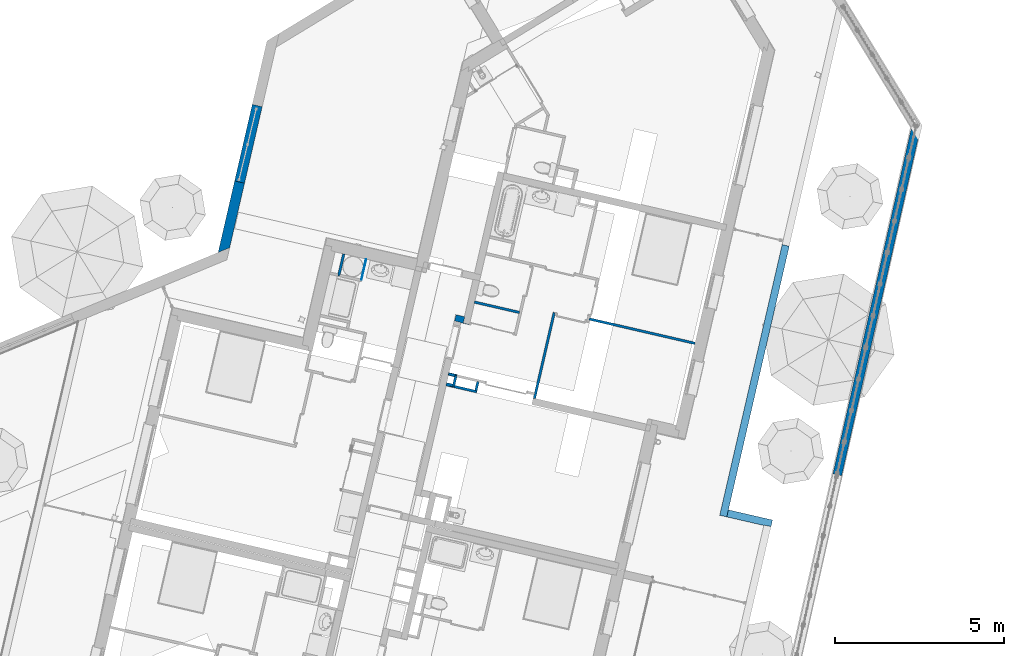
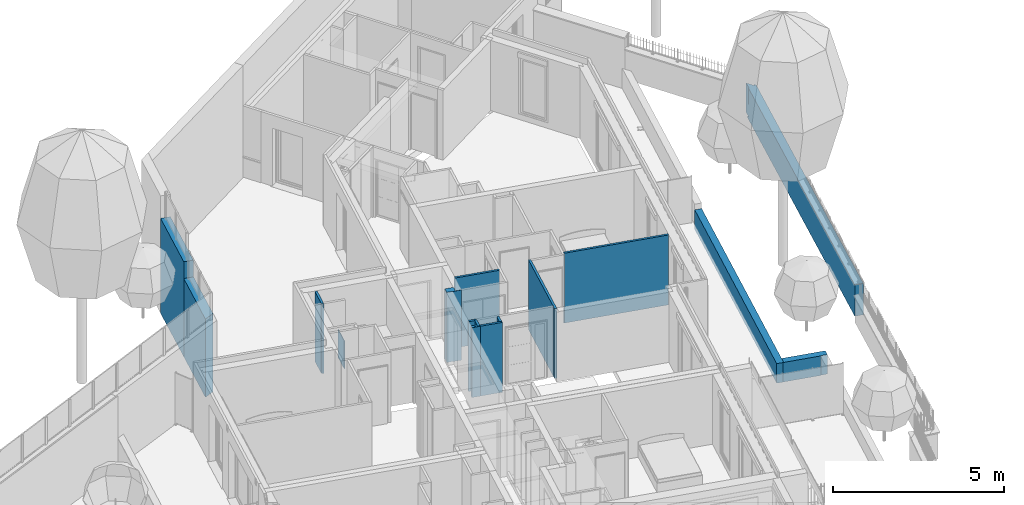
# One storey, part 59 of 119: 16 walls.
"""IFC2X3 building model written with IfcOpenShell, lengths in metres."""

import ifcopenshell
import ifcopenshell.guid

model = None  # the IFC model being written
_history = None  # IfcOwnerHistory: only IFC2X3 demands one
_inside = {}  # id of a spatial element -> (the spatial element, [elements in it])
_under = {}  # id of a project, library or spatial element -> (it, [spatial elements below it])
_declared = {}  # id of a project -> (the project, [libraries it declares])
_typed = {}  # id of a type object -> (the type object, [elements of that type])
_made_of = {}  # id of a material, layer set ... -> (it, [elements and type objects made of it])


def new_model(schema):
    """Start an empty IFC model of exactly this schema.

    Asked for "IFC4X3", IfcOpenShell would pick the latest addendum, in which some entities
    have other attributes; the version numbers below select the first issue.
    IFC2X3 requires an IfcOwnerHistory on every rooted entity: one is made here for all.
    """
    global model, _history
    if schema == "IFC4X3":
        model = ifcopenshell.file(schema_version=(4, 3, 0, 0))
    else:
        model = ifcopenshell.file(schema=schema)
    _inside.clear()
    _under.clear()
    _declared.clear()
    _typed.clear()
    _made_of.clear()
    _history = None
    if model.schema == "IFC2X3":
        org = make("IfcOrganization", Name="unknown")
        user = make(
            "IfcPersonAndOrganization",
            ThePerson=make("IfcPerson", FamilyName="unknown"),
            TheOrganization=org,
        )
        app = make(
            "IfcApplication",
            ApplicationDeveloper=org,
            Version="unknown",
            ApplicationFullName="unknown",
            ApplicationIdentifier="unknown",
        )
        _history = make(
            "IfcOwnerHistory",
            OwningUser=user,
            OwningApplication=app,
            ChangeAction="ADDED",
            CreationDate=0,
        )
    return model


def make(cls, **values):
    """One entity of the class cls with the attributes given. An attribute that is None is left unset."""
    return model.create_entity(
        cls, **{name: value for name, value in values.items() if value is not None}
    )


def entity(cls, *values):
    """Any entity or typed value of the class cls, its attributes in the order of the schema. None: left unset."""
    e = model.create_entity(cls)
    for i, value in enumerate(values):
        if value is not None:
            e[i] = value
    return e


def rooted(cls, **values):
    """An entity with a GlobalId (a new one), such as an element, a storey or a relation."""
    return make(cls, GlobalId=ifcopenshell.guid.new(), OwnerHistory=_history, **values)


def si_unit(unit_type, name, prefix=None):
    """IfcSIUnit, for example si_unit("LENGTHUNIT", "METRE", prefix="MILLI")."""
    return make("IfcSIUnit", UnitType=unit_type, Prefix=prefix, Name=name)


def converted_unit(unit_type, name, factor, base, dimensions=None, offset=None):
    """IfcConversionBasedUnit, such as the inch: factor (a typed value) times the base unit."""
    return make(
        "IfcConversionBasedUnit"
        if offset is None
        else "IfcConversionBasedUnitWithOffset",
        ConversionOffset=offset,
        Dimensions=None
        if dimensions is None
        else entity("IfcDimensionalExponents", *dimensions),
        UnitType=unit_type,
        Name=name,
        ConversionFactor=make(
            "IfcMeasureWithUnit", ValueComponent=factor, UnitComponent=base
        ),
    )


def derived_unit(unit_type, elements):
    """IfcDerivedUnit: a product of units, each with its exponent."""
    return make(
        "IfcDerivedUnit",
        Elements=[
            make("IfcDerivedUnitElement", Unit=unit, Exponent=power)
            for unit, power in elements
        ],
        UnitType=unit_type,
    )


def money_unit(currency):
    """IfcMonetaryUnit."""
    return make("IfcMonetaryUnit", Currency=currency)


def assignment(units):
    """IfcUnitAssignment: the units of a project."""
    return None if units is None else make("IfcUnitAssignment", Units=units)


def point(xyz):
    """IfcCartesianPoint."""
    return None if xyz is None else make("IfcCartesianPoint", Coordinates=xyz)


def direction(xyz):
    """IfcDirection."""
    return None if xyz is None else make("IfcDirection", DirectionRatios=xyz)


def frame(location, z_axis=None, x_axis=None):
    """IfcAxis2Placement3D, a coordinate frame: its origin and axes. An axis left out is left unset."""
    return make(
        "IfcAxis2Placement3D",
        Location=point(location),
        Axis=direction(z_axis),
        RefDirection=direction(x_axis),
    )


def origin_with_axes():
    """The frame at (0, 0, 0) with the z axis (0, 0, 1) and the x axis (1, 0, 0) written out."""
    return frame((0.0, 0.0, 0.0), z_axis=(0.0, 0.0, 1.0), x_axis=(1.0, 0.0, 0.0))


def place(relative_to, where):
    """IfcLocalPlacement: puts the frame where relative to a parent placement (None: the world)."""
    return make(
        "IfcLocalPlacement", PlacementRelTo=relative_to, RelativePlacement=where
    )


def context(
    kind, dimensions, precision=None, world=None, true_north=None, identifier=None
):
    """IfcGeometricRepresentationContext, for example the 3D "Model" context."""
    return make(
        "IfcGeometricRepresentationContext",
        ContextIdentifier=identifier,
        ContextType=kind,
        CoordinateSpaceDimension=dimensions,
        Precision=precision,
        WorldCoordinateSystem=world,
        TrueNorth=true_north,
    )


def subcontext(parent, identifier, kind, view, scale=None):
    """IfcGeometricRepresentationSubContext, for example "Body" below "Model"."""
    return make(
        "IfcGeometricRepresentationSubContext",
        ContextIdentifier=identifier,
        ContextType=kind,
        ParentContext=parent,
        TargetScale=scale,
        TargetView=view,
    )


def project(units=None, contexts=None):
    """IfcProject with its units and contexts."""
    return rooted(
        "IfcProject",
        Name="project",
        RepresentationContexts=contexts,
        UnitsInContext=assignment(units),
    )


def spatial(cls, under=None, at=None, **own):
    """A site, building, storey or space (cls), placed at a placement, below another one or the project."""
    s = rooted(cls, ObjectPlacement=at, **own)
    if under is not None:
        _under.setdefault(under.id(), (under, []))[1].append(s)
    return s


def faces_of(points, faces, orient=None, outer=None):
    """IfcFace entities. A face is a list of loops; a loop is a list of indices into points, from 0.

    orient and outer hold one flag for each loop. By default every Orientation is true, the
    first loop of a face is its IfcFaceOuterBound and the others are IfcFaceBound.
    """
    made = []
    for i, loops in enumerate(faces):
        bounds = []
        for j, loop in enumerate(loops):
            is_outer = j == 0 if outer is None else outer[i][j]
            bounds.append(
                make(
                    "IfcFaceOuterBound" if is_outer else "IfcFaceBound",
                    Bound=make("IfcPolyLoop", Polygon=[points[k] for k in loop]),
                    Orientation=True if orient is None else orient[i][j],
                )
            )
        made.append(make("IfcFace", Bounds=bounds))
    return made


def faceted_brep(points, faces, orient=None, outer=None, voids=None):
    """IfcFacetedBrep: a solid bounded by flat faces; with voids (closed shells), ...WithVoids."""
    shared = [point(p) for p in points]
    hull = make("IfcClosedShell", CfsFaces=faces_of(shared, faces, orient, outer))
    if voids is None:
        return make("IfcFacetedBrep", Outer=hull)
    return make(
        "IfcFacetedBrepWithVoids",
        Outer=hull,
        Voids=[
            make(cls, CfsFaces=faces_of(shared, fs, o, b)) for cls, fs, o, b in voids
        ],
    )


def shape(context_of_items, identifier, shape_type, items):
    """IfcShapeRepresentation: the items that make up one representation, for example the "Body"."""
    return make(
        "IfcShapeRepresentation",
        ContextOfItems=context_of_items,
        RepresentationIdentifier=identifier,
        RepresentationType=shape_type,
        Items=items,
    )


def material(Name=None, Category=None):
    """IfcMaterial."""
    return make("IfcMaterial", Name=Name, Category=Category)


def material_list(materials):
    """IfcMaterialList."""
    return make("IfcMaterialList", Materials=materials)


def made_of(thing, what):
    """Note that an element or type object is made of a material, layer set ...; save() writes the relation."""
    if what is not None:
        _made_of.setdefault(what.id(), (what, []))[1].append(thing)
    return thing


def type_object(cls, material=None, **own):
    """A type object (cls), such as IfcWallType, which elements share."""
    return made_of(rooted(cls, **own), material)


def element(
    cls,
    number,
    at=None,
    inside=None,
    cuts=None,
    type_object=None,
    material=None,
    context=None,
    identifier="Body",
    shape_type=None,
    held_by="IfcProductDefinitionShape",
    body=None,
    shapes=None,
    **own,
):
    """One element of the class cls, such as IfcWall. Its Tag is "e" and its number.

    at: its placement. inside: the storey or other place that contains it. cuts: it is an
    opening in that element (IfcRelVoidsElement). A single representation is given by context,
    identifier, shape_type and body (its items); several are given by shapes. held_by: the class
    of the entity that holds the representations. save() writes the other relations.
    """
    e = rooted(cls, Tag="e%d" % number, ObjectPlacement=at, **own)
    if body is not None:
        shapes = [shape(context, identifier, shape_type, body)]
    if shapes is not None:
        e.Representation = make(held_by, Representations=shapes)
    if inside is not None:
        _inside.setdefault(inside.id(), (inside, []))[1].append(e)
    if cuts is not None:
        rooted(
            "IfcRelVoidsElement", RelatingBuildingElement=cuts, RelatedOpeningElement=e
        )
    if type_object is not None:
        _typed.setdefault(type_object.id(), (type_object, []))[1].append(e)
    return made_of(e, material)


def aggregate(whole, parts):
    """IfcRelAggregates: a whole, such as a stair, and the parts it consists of."""
    return rooted("IfcRelAggregates", RelatingObject=whole, RelatedObjects=parts)


def save(model, path):
    """Write the relations noted so far, then the file.

    IfcRelAggregates (storeys below a building ...), IfcRelContainedInSpatialStructure (elements
    in a storey), IfcRelDefinesByType, IfcRelAssociatesMaterial and IfcRelDeclares: one each for
    every whole, place, type object, material and project.
    """
    for whole, parts in _under.values():
        aggregate(whole, parts)
    for where, things in _inside.values():
        rooted(
            "IfcRelContainedInSpatialStructure",
            RelatedElements=things,
            RelatingStructure=where,
        )
    for kind, things in _typed.values():
        rooted("IfcRelDefinesByType", RelatedObjects=things, RelatingType=kind)
    for what, things in _made_of.values():
        rooted("IfcRelAssociatesMaterial", RelatedObjects=things, RelatingMaterial=what)
    for by, libraries in _declared.values():
        rooted("IfcRelDeclares", RelatingContext=by, RelatedDefinitions=libraries)
    model.write(path)


model = new_model("IFC2X3")

# Units and contexts
model_context = context("Model", 3, precision=1e-05, world=origin_with_axes(), true_north=direction((0.0, 1.0)))
body_context = subcontext(model_context, "Body", "Model", "MODEL_VIEW")
ifc_project = project(units=[si_unit("LENGTHUNIT", "METRE"), si_unit("AREAUNIT", "SQUARE_METRE"), si_unit("VOLUMEUNIT", "CUBIC_METRE"), converted_unit("PLANEANGLEUNIT", "DEGREE", entity("IfcPlaneAngleMeasure", 0.0174532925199), si_unit("PLANEANGLEUNIT", "RADIAN"), dimensions=[0, 0, 0, 0, 0, 0, 0]), si_unit("SOLIDANGLEUNIT", "STERADIAN"), money_unit("EUR"), converted_unit("TIMEUNIT", "Year", entity("IfcTimeMeasure", 31556926.0), si_unit("TIMEUNIT", "SECOND"), dimensions=[0, 0, 1, 0, 0, 0, 0]), si_unit("MASSUNIT", "GRAM", prefix="KILO"), si_unit("THERMODYNAMICTEMPERATUREUNIT", "DEGREE_CELSIUS"), si_unit("LUMINOUSINTENSITYUNIT", "LUMEN"), si_unit("ENERGYUNIT", "JOULE", prefix="MEGA"), derived_unit("THERMALCONDUCTANCEUNIT", [(si_unit("POWERUNIT", "WATT"), 1), (si_unit("LENGTHUNIT", "METRE"), -1), (si_unit("THERMODYNAMICTEMPERATUREUNIT", "KELVIN"), -1)]), derived_unit("SPECIFICHEATCAPACITYUNIT", [(si_unit("ENERGYUNIT", "JOULE"), 1), (si_unit("MASSUNIT", "GRAM", prefix="KILO"), -1), (si_unit("THERMODYNAMICTEMPERATUREUNIT", "KELVIN"), -1)]), derived_unit("MASSDENSITYUNIT", [(si_unit("MASSUNIT", "GRAM", prefix="KILO"), 1), (si_unit("VOLUMEUNIT", "CUBIC_METRE"), -1)])], contexts=[model_context])

# Site, building, storey
site_placement = place(None, origin_with_axes())
site = spatial("IfcSite", under=ifc_project, at=site_placement, Name="Site", CompositionType="ELEMENT")
building_placement = place(site_placement, origin_with_axes())
building = spatial("IfcBuilding", under=site, at=building_placement, Name="Bâtiment", CompositionType="ELEMENT")
storey_placement = place(building_placement, origin_with_axes())
storey = spatial("IfcBuildingStorey", under=building, at=storey_placement, Name="Rez-de-chaussée", CompositionType="ELEMENT", Elevation=0.0)

# Walls
ifc_material_1 = material(Name="Béton")
wall_type_1 = type_object("IfcWallType", Name="Béton 300", PredefinedType="USERDEFINED")
wall_1_placement = place(storey_placement, frame((-13.3099971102, 14.0436946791, -0.03), z_axis=(0.0, 0.0, 1.0), x_axis=(-0.22487619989, -0.974387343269, 0.0)))
element("IfcWall", 1, at=wall_1_placement, inside=storey, type_object=wall_type_1, material=ifc_material_1, Name="Voile projeté béton par passes alternées", ObjectType="SOLIDWALL", context=body_context, shape_type="Brep", body=[
    faceted_brep([(0.0, 0.0, 2.8), (0.0, -0.3, 2.8), (2.17054997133, -0.3, 2.8), (1.9563859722, 0.0, 2.8), (0.0, 0.0, 0.0), (0.0, -0.3, 0.0), (2.17054997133, -0.3, 0.0), (1.9563859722, 0.0, 0.0)], [[[0, 1, 2, 3]], [[0, 4, 5, 1]], [[1, 5, 6, 2]], [[6, 7, 3, 2]], [[4, 0, 3, 7]], [[5, 4, 7, 6]]]),
])
wall_2_placement = place(storey_placement, frame((-12.7871630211, 16.3091319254, -0.03), z_axis=(0.0, 0.0, 1.0), x_axis=(-0.22487619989, -0.974387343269, 0.0)))
element("IfcWall", 2, at=wall_2_placement, inside=storey, type_object=wall_type_1, material=ifc_material_1, Name="Voile projeté béton par passes alternées", ObjectType="SOLIDWALL", context=body_context, shape_type="Brep", body=[
    faceted_brep([(0.0, -0.3, 3.4), (2.32498632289, -0.3, 3.4), (2.32498632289, 0.0, 3.4), (0.0, 0.0, 3.4), (0.0, -0.3, 0.0), (2.32498632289, -0.3, 0.0), (2.32498632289, 0.0, 0.0), (0.0, 0.0, 0.0)], [[[0, 1, 2, 3]], [[4, 5, 1, 0]], [[2, 1, 5, 6]], [[3, 2, 6, 7]], [[4, 0, 3, 7]], [[7, 6, 5, 4]]]),
])
ifc_material_2 = material(Name="Finition int - Plaque de plâtre")
ifc_material_3 = material(Name="Isolation - Laine de roche")
ifc_material_list_1 = material_list([ifc_material_2, ifc_material_3, ifc_material_2])
wall_type_2 = type_object("IfcWallType", Name="3 - Cloison 72mm Placostil 74", PredefinedType="USERDEFINED")
wall_3_placement = place(storey_placement, frame((-6.44100281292, 7.83599391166, 0.0), z_axis=(0.0, 0.0, 1.0), x_axis=(-0.974387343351, 0.224876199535, 0.0)))
element("IfcWall", 3, at=wall_3_placement, inside=storey, type_object=wall_type_2, material=ifc_material_list_1, Name="Cloison Placostil 72/48", ObjectType="PARTITIONING", context=body_context, shape_type="Brep", body=[
    faceted_brep([(0.0, -0.013, 0.0), (0.673999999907, -0.013, 0.0), (0.673999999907, -0.013, 2.5), (0.0, -0.013, 2.5), (0.0, 0.0, 0.0), (0.673999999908, 0.0, 0.0), (0.673999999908, 0.0, 2.5), (0.0, 0.0, 2.5)], [[[0, 1, 2, 3]], [[4, 5, 1, 0]], [[5, 6, 2, 1]], [[3, 2, 6, 7]], [[0, 3, 7, 4]], [[7, 6, 5, 4]]]),
    faceted_brep([(0.012999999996, -0.061, 0.0), (0.686999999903, -0.061, 0.0), (0.686999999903, -0.061, 2.5), (0.012999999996, -0.061, 2.5), (0.734999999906, -0.026, 0.0), (0.686999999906, -0.026, 0.0), (0.0129999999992, -0.013, 0.0), (0.847999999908, -0.013, 0.0), (0.847999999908, -0.026, 0.0), (0.686999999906, -0.026, 2.5), (0.734999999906, -0.026, 2.5), (0.847999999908, -0.026, 2.5), (0.847999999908, -0.013, 2.5), (0.0129999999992, -0.013, 2.5)], [[[0, 1, 2, 3]], [[4, 5, 1, 0, 6, 7, 8]], [[5, 9, 2, 1]], [[2, 9, 10, 11, 12, 13, 3]], [[0, 3, 13, 6]], [[11, 10, 9, 5, 4, 8]], [[7, 6, 13, 12]], [[12, 11, 8, 7]]]),
    faceted_brep([(0.0609999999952, -0.074, 0.0), (0.673999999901, -0.074, 0.0), (0.673999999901, -0.074, 2.5), (0.0609999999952, -0.074, 2.5), (0.060999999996, -0.061, 0.0), (0.673999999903, -0.061, 0.0), (0.673999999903, -0.061, 2.5), (0.060999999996, -0.061, 2.5)], [[[0, 1, 2, 3]], [[4, 5, 1, 0]], [[5, 6, 2, 1]], [[3, 2, 6, 7]], [[0, 3, 7, 4]], [[7, 6, 5, 4]]]),
])
wall_4_placement = place(storey_placement, frame((-4.73651764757, 7.48675072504, 0.0), z_axis=(0.0, 0.0, 1.0), x_axis=(0.224876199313, 0.974387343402, 0.0)))
element("IfcWall", 4, at=wall_4_placement, inside=storey, type_object=wall_type_2, material=ifc_material_list_1, Name="Cloison Placostil 72/48", ObjectType="PARTITIONING", context=body_context, shape_type="Brep", body=[
    faceted_brep([(2.80185332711, 0.074, 0.0), (2.80185332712, 0.061, 0.0), (0.341999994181, 0.061, 0.0), (0.341999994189, 0.074, 0.0), (2.80185332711, 0.074, 2.5), (2.80185332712, 0.061, 2.5), (0.341999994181, 0.061, 2.5), (0.341999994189, 0.074, 2.5)], [[[0, 1, 2, 3]], [[1, 0, 4, 5]], [[1, 5, 6, 2]], [[7, 3, 2, 6]], [[4, 0, 3, 7]], [[5, 4, 7, 6]]]),
    faceted_brep([(0.293999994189, 0.074, 0.0), (0.293999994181, 0.061, 0.0), (0.180000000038, 0.061, 0.0), (0.180000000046, 0.074, 0.0), (0.293999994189, 0.074, 2.5), (0.293999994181, 0.061, 2.5), (0.180000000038, 0.061, 2.5), (0.180000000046, 0.074, 2.5)], [[[0, 1, 2, 3]], [[1, 0, 4, 5]], [[1, 5, 6, 2]], [[7, 3, 2, 6]], [[4, 0, 3, 7]], [[5, 4, 7, 6]]]),
    faceted_brep([(2.78885332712, 0.061, 0.0), (2.78885332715, 0.013, 0.0), (0.180000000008, 0.013, 0.0), (0.180000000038, 0.061, 0.0), (2.78885332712, 0.061, 2.5), (2.78885332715, 0.013, 2.5), (0.180000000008, 0.013, 2.5), (0.180000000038, 0.061, 2.5)], [[[0, 1, 2, 3]], [[1, 0, 4, 5]], [[1, 5, 6, 2]], [[7, 3, 2, 6]], [[4, 0, 3, 7]], [[5, 4, 7, 6]]]),
    faceted_brep([(2.74085332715, 0.013, 0.0), (2.74085332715, 0.0, 0.0), (0.18, 0.0, 0.0), (0.180000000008, 0.013, 0.0), (2.74085332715, 0.013, 2.5), (2.74085332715, 0.0, 2.5), (0.18, 0.0, 2.5), (0.180000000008, 0.013, 2.5)], [[[0, 1, 2, 3]], [[1, 0, 4, 5]], [[1, 5, 6, 2]], [[7, 3, 2, 6]], [[4, 0, 3, 7]], [[5, 4, 7, 6]]]),
])
wall_5_placement = place(storey_placement, frame((-6.36814292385, 8.15169541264, 0.0), z_axis=(0.0, 0.0, 1.0), x_axis=(-0.224876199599, -0.974387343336, 0.0)))
element("IfcWall", 5, at=wall_5_placement, inside=storey, type_object=wall_type_2, material=ifc_material_list_1, Name="Cloison Placostil 72/48", ObjectType="PARTITIONING", context=body_context, shape_type="Brep", body=[
    faceted_brep([(0.311000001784, -0.013, 2.5), (0.311000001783, 0.0, 2.5), (1.69246305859e-09, 0.0, 2.5), (1.68891922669e-09, -0.013, 2.5), (0.311000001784, -0.013, 0.0), (0.311000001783, 0.0, 0.0), (1.69246305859e-09, 0.0, 0.0), (1.68891922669e-09, -0.013, 0.0)], [[[0, 1, 2, 3]], [[1, 0, 4, 5]], [[1, 5, 6, 2]], [[7, 3, 2, 6]], [[4, 0, 3, 7]], [[5, 4, 7, 6]]]),
    faceted_brep([(0.263000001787, -0.061, 2.5), (0.263000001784, -0.013, 2.5), (-0.0129999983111, -0.013, 2.5), (-0.0129999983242, -0.061, 2.5), (0.263000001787, -0.061, 0.0), (0.263000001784, -0.013, 0.0), (-0.0129999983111, -0.013, 0.0), (-0.0129999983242, -0.061, 0.0)], [[[0, 1, 2, 3]], [[1, 0, 4, 5]], [[1, 5, 6, 2]], [[7, 3, 2, 6]], [[4, 0, 3, 7]], [[5, 4, 7, 6]]]),
    faceted_brep([(0.250000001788, -0.074, 2.5), (0.250000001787, -0.061, 2.5), (1.67583813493e-09, -0.061, 2.5), (1.67229430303e-09, -0.074, 2.5), (0.250000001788, -0.074, 0.0), (0.250000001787, -0.061, 0.0), (1.67583813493e-09, -0.061, 0.0), (1.67229430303e-09, -0.074, 0.0)], [[[0, 1, 2, 3]], [[1, 0, 4, 5]], [[1, 5, 6, 2]], [[7, 3, 2, 6]], [[4, 0, 3, 7]], [[5, 4, 7, 6]]]),
])
wall_6_placement = place(storey_placement, frame((-7.28053508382, 8.36226391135, 0.0), z_axis=(0.0, 0.0, 1.0), x_axis=(0.974387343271, -0.224876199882, 0.0)))
element("IfcWall", 6, at=wall_6_placement, inside=storey, type_object=wall_type_2, material=ifc_material_list_1, Name="Cloison Placostil 72/48", ObjectType="PARTITIONING", context=body_context, shape_type="Brep", body=[
    faceted_brep([(0.0, 0.074, 0.0), (0.249375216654, 0.074, 0.0), (0.249375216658, 0.061, 0.0), (0.0, 0.061, 0.0), (0.0, 0.074, 2.5), (0.249375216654, 0.074, 2.5), (0.249375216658, 0.061, 2.5), (0.0, 0.061, 2.5)], [[[0, 1, 2, 3]], [[4, 5, 1, 0]], [[6, 2, 1, 5]], [[3, 2, 6, 7]], [[7, 4, 0, 3]], [[7, 6, 5, 4]]]),
    faceted_brep([(0.201375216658, 0.061, 0.0), (0.20137521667, 0.013, 0.0), (0.0, 0.013, 0.0), (0.0, 0.061, 0.0), (0.201375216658, 0.061, 2.5), (0.20137521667, 0.013, 2.5), (0.0, 0.013, 2.5), (0.0, 0.061, 2.5)], [[[0, 1, 2, 3]], [[1, 0, 4, 5]], [[1, 5, 6, 2]], [[7, 3, 2, 6]], [[4, 0, 3, 7]], [[5, 4, 7, 6]]]),
    faceted_brep([(0.18837521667, 0.013, 0.0), (0.188375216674, 0.0, 0.0), (0.0, 0.0, 0.0), (0.0, 0.013, 0.0), (0.18837521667, 0.013, 2.5), (0.188375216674, 0.0, 2.5), (0.0, 0.0, 2.5), (0.0, 0.013, 2.5)], [[[0, 1, 2, 3]], [[1, 0, 4, 5]], [[1, 5, 6, 2]], [[7, 3, 2, 6]], [[4, 0, 3, 7]], [[5, 4, 7, 6]]]),
])
wall_7_placement = place(storey_placement, frame((-3.1024960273, 9.98837130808, 0.0), z_axis=(0.0, 0.0, 1.0), x_axis=(0.974387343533, -0.224876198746, 0.0)))
element("IfcWall", 7, at=wall_7_placement, inside=storey, type_object=wall_type_2, material=ifc_material_list_1, Name="Cloison Placostil 72/48", ObjectType="PARTITIONING", context=body_context, shape_type="Brep", body=[
    faceted_brep([(0.0, 0.074, 0.0), (3.1973849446, 0.074, 0.0), (3.1973849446, 0.061, 0.0), (0.0, 0.061, 0.0), (0.0, 0.074, 2.5), (3.1973849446, 0.074, 2.5), (3.1973849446, 0.061, 2.5), (0.0, 0.061, 2.5)], [[[0, 1, 2, 3]], [[4, 5, 1, 0]], [[2, 1, 5, 6]], [[3, 2, 6, 7]], [[4, 0, 3, 7]], [[7, 6, 5, 4]]]),
    faceted_brep([(-0.013, 0.061, 0.0), (3.1973849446, 0.061, 0.0), (3.1973849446, 0.013, 0.0), (-0.013, 0.013, 0.0), (-0.013, 0.061, 2.5), (3.1973849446, 0.061, 2.5), (3.1973849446, 0.013, 2.5), (-0.013, 0.013, 2.5)], [[[0, 1, 2, 3]], [[4, 5, 1, 0]], [[2, 1, 5, 6]], [[3, 2, 6, 7]], [[4, 0, 3, 7]], [[7, 6, 5, 4]]]),
    faceted_brep([(0.0, 0.013, 0.0), (3.1973849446, 0.013, 0.0), (3.1973849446, 0.0, 0.0), (0.0, 0.0, 0.0), (0.0, 0.013, 2.5), (3.1973849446, 0.013, 2.5), (3.1973849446, 0.0, 2.5), (0.0, 0.0, 2.5)], [[[0, 1, 2, 3]], [[4, 5, 1, 0]], [[2, 1, 5, 6]], [[3, 2, 6, 7]], [[4, 0, 3, 7]], [[7, 6, 5, 4]]]),
])
wall_8_placement = place(storey_placement, frame((-6.51604578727, 10.491743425, 0.0), z_axis=(0.0, 0.0, 1.0), x_axis=(0.974387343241, -0.22487620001, 0.0)))
element("IfcWall", 8, at=wall_8_placement, inside=storey, type_object=wall_type_2, material=ifc_material_list_1, Name="Cloison Placostil 72/48", ObjectType="PARTITIONING", context=body_context, shape_type="Brep", body=[
    faceted_brep([(1.35947786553, 0.074, 0.0), (1.35947786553, 0.061, 0.0), (0.0, 0.061, 0.0), (0.0, 0.074, 0.0), (1.35947786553, 0.074, 2.5), (1.35947786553, 0.061, 2.5), (0.0, 0.061, 2.5), (0.0, 0.074, 2.5)], [[[0, 1, 2, 3]], [[1, 0, 4, 5]], [[1, 5, 6, 2]], [[7, 3, 2, 6]], [[4, 0, 3, 7]], [[5, 4, 7, 6]]]),
    faceted_brep([(1.37247786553, 0.061, 0.0), (1.37247786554, 0.013, 0.0), (0.0, 0.013, 0.0), (0.0, 0.061, 0.0), (1.37247786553, 0.061, 2.5), (1.37247786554, 0.013, 2.5), (0.0, 0.013, 2.5), (0.0, 0.061, 2.5)], [[[0, 1, 2, 3]], [[1, 0, 4, 5]], [[1, 5, 6, 2]], [[7, 3, 2, 6]], [[4, 0, 3, 7]], [[5, 4, 7, 6]]]),
    faceted_brep([(1.35947786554, 0.013, 0.0), (1.35947786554, 0.0, 0.0), (0.0, 0.0, 0.0), (0.0, 0.013, 0.0), (1.35947786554, 0.013, 2.5), (1.35947786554, 0.0, 2.5), (0.0, 0.0, 2.5), (0.0, 0.013, 2.5)], [[[0, 1, 2, 3]], [[1, 0, 4, 5]], [[1, 5, 6, 2]], [[7, 3, 2, 6]], [[4, 0, 3, 7]], [[5, 4, 7, 6]]]),
])
ifc_material_4 = material(Name="Finition int - Enduit plâtre")
ifc_material_list_2 = material_list([ifc_material_4, ifc_material_1, ifc_material_4])
wall_type_3 = type_object("IfcWallType", Name="2 - Murs Béton 18 + Enduit 2 Faces 200", PredefinedType="USERDEFINED")
wall_9_placement = place(storey_placement, frame((-6.80237367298, 10.0959955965, 0.0), z_axis=(0.0, 0.0, 1.0), x_axis=(-0.974387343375, 0.22487619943, 0.0)))
element("IfcWall", 9, at=wall_9_placement, inside=storey, type_object=wall_type_3, material=ifc_material_list_2, Name="M_Ext-008", ObjectType="SOLIDWALL", context=body_context, shape_type="Brep", body=[
    faceted_brep([(0.0752275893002, 0.19, 2.51), (-0.189999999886, 0.19, 2.51), (-0.189999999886, 0.19, 0.0), (0.0752275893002, 0.19, 0.0), (-0.18999999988, 0.2, 2.51), (0.0752326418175, 0.2, 2.51), (-0.18999999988, 0.2, 0.0), (0.0752326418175, 0.2, 0.0)], [[[0, 1, 2, 3]], [[4, 1, 0, 5]], [[1, 4, 6, 2]], [[7, 3, 2, 6]], [[5, 0, 3, 7]], [[4, 5, 7, 6]]]),
    faceted_brep([(0.255136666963, 0.01, 2.51), (-0.00999999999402, 0.01, 2.51), (-0.00999999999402, 0.01, 0.0), (0.255136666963, 0.01, 0.0), (-0.00999999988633, 0.19, 2.51), (0.255227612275, 0.19, 2.51), (-0.00999999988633, 0.19, 0.0), (0.255227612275, 0.19, 0.0)], [[[0, 1, 2, 3]], [[4, 1, 0, 5]], [[1, 4, 6, 2]], [[7, 3, 2, 6]], [[5, 0, 3, 7]], [[4, 5, 7, 6]]]),
    faceted_brep([(0.265131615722, 0.0, 2.51), (0.0, 0.0, 2.51), (0.0, 0.0, 0.0), (0.265131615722, 0.0, 0.0), (0.0, 0.01, 2.51), (0.265136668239, 0.01, 2.51), (0.0, 0.01, 0.0), (0.265136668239, 0.01, 0.0)], [[[0, 1, 2, 3]], [[4, 1, 0, 5]], [[1, 4, 6, 2]], [[2, 6, 7, 3]], [[5, 0, 3, 7]], [[4, 5, 7, 6]]]),
])
wall_type_4 = type_object("IfcWallType", Name="3 - Cloison Gaine Technique 72mm 74", PredefinedType="USERDEFINED")
wall_10_placement = place(storey_placement, frame((-7.02487999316, 8.30326197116, 0.0), z_axis=(0.0, 0.0, 1.0), x_axis=(-0.224876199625, -0.97438734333, 0.0)))
element("IfcWall", 10, at=wall_10_placement, inside=storey, type_object=wall_type_4, material=ifc_material_list_1, Name="Cloison Placostil 72/48", ObjectType="PARTITIONING", context=body_context, shape_type="Brep", body=[
    faceted_brep([(0.263000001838, 0.0, 0.0), (-0.0129999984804, 0.0, 0.0), (-0.0129999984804, 0.0, 2.5), (0.263000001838, 0.0, 2.5), (0.263000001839, -0.013, 0.0), (-0.0129999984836, -0.013, 0.0), (-0.0129999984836, -0.013, 2.5), (0.263000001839, -0.013, 2.5)], [[[0, 1, 2, 3]], [[4, 5, 1, 0]], [[5, 6, 2, 1]], [[3, 2, 6, 7]], [[4, 0, 3, 7]], [[7, 6, 5, 4]]]),
    faceted_brep([(-0.0739999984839, -0.013, 2.5), (-0.0609999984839, -0.013, 2.5), (-0.0609999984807, 0.0, 2.5), (-0.0739999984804, 0.0, 2.5), (-0.0739999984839, -0.013, 0.0), (-0.0609999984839, -0.013, 0.0), (-0.0609999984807, 0.0, 0.0), (-0.0739999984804, 0.0, 0.0)], [[[0, 1, 2, 3]], [[4, 5, 1, 0]], [[5, 6, 2, 1]], [[3, 2, 6, 7]], [[7, 4, 0, 3]], [[7, 6, 5, 4]]]),
    faceted_brep([(-0.0609999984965, -0.061, 2.5), (0.298000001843, -0.061, 2.5), (0.298000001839, -0.013, 2.5), (-0.0609999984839, -0.013, 2.5), (-0.0609999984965, -0.061, 0.0), (0.298000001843, -0.061, 0.0), (0.298000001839, -0.013, 0.0), (-0.0609999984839, -0.013, 0.0)], [[[0, 1, 2, 3]], [[4, 5, 1, 0]], [[6, 2, 1, 5]], [[3, 2, 6, 7]], [[7, 4, 0, 3]], [[7, 6, 5, 4]]]),
    faceted_brep([(-0.0129999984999, -0.074, 2.5), (0.237000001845, -0.074, 2.5), (0.237000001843, -0.061, 2.5), (-0.0129999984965, -0.061, 2.5), (-0.0129999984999, -0.074, 0.0), (0.237000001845, -0.074, 0.0), (0.237000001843, -0.061, 0.0), (-0.0129999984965, -0.061, 0.0)], [[[0, 1, 2, 3]], [[4, 5, 1, 0]], [[6, 2, 1, 5]], [[3, 2, 6, 7]], [[7, 4, 0, 3]], [[7, 6, 5, 4]]]),
])
wall_11_placement = place(storey_placement, frame((-10.3373790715, 11.943836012, 0.0), z_axis=(0.0, 0.0, 1.0), x_axis=(-0.224876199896, -0.974387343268, 0.0)))
element("IfcWall", 11, at=wall_11_placement, inside=storey, type_object=wall_type_4, material=ifc_material_list_1, Name="Cloison Placostil 72/48", ObjectType="PARTITIONING", context=body_context, shape_type="Brep", body=[
    faceted_brep([(0.684000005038, 0.0, 0.0), (0.671000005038, 0.0, 0.0), (0.671000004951, 0.0, 2.5), (0.684000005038, 0.0, 2.5), (0.684000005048, -0.013, 0.0), (0.671000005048, -0.013, 0.0), (0.671000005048, -0.013, 2.5), (0.684000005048, -0.013, 2.5)], [[[0, 1, 2, 3]], [[4, 5, 1, 0]], [[5, 6, 2, 1]], [[3, 2, 6, 7]], [[0, 3, 7, 4]], [[7, 6, 5, 4]]]),
    faceted_brep([(0.0, -0.013, 2.5), (0.623000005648, -0.013, 2.5), (0.6230000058, 0.0, 2.5), (0.0, 0.0, 2.5), (0.0, -0.013, 0.0), (0.623000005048, -0.013, 0.0), (0.623000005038, 0.0, 0.0), (0.0, 0.0, 0.0)], [[[0, 1, 2, 3]], [[4, 5, 1, 0]], [[5, 6, 2, 1]], [[3, 2, 6, 7]], [[7, 4, 0, 3]], [[7, 6, 5, 4]]]),
    faceted_brep([(0.0, -0.061, 2.5), (0.671000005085, -0.061, 2.5), (0.671000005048, -0.013, 2.5), (0.0, -0.013, 2.5), (0.0, -0.061, 0.0), (0.671000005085, -0.061, 0.0), (0.671000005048, -0.013, 0.0), (0.0, -0.013, 0.0)], [[[0, 1, 2, 3]], [[4, 5, 1, 0]], [[6, 2, 1, 5]], [[3, 2, 6, 7]], [[7, 4, 0, 3]], [[7, 6, 5, 4]]]),
    faceted_brep([(0.623000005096, -0.074, 2.5), (0.623000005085, -0.061, 2.5), (0.0, -0.061, 2.5), (0.0, -0.074, 2.5), (0.623000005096, -0.074, 0.0), (0.623000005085, -0.061, 0.0), (0.0, -0.061, 0.0), (0.0, -0.074, 0.0)], [[[0, 1, 2, 3]], [[1, 0, 4, 5]], [[1, 5, 6, 2]], [[7, 3, 2, 6]], [[4, 0, 3, 7]], [[5, 4, 7, 6]]]),
])
ifc_material_list_3 = material_list([ifc_material_2, ifc_material_2, ifc_material_3, ifc_material_2, ifc_material_2])
wall_type_5 = type_object("IfcWallType", Name="3 - Cloison Gaine Technique 98mm 100", PredefinedType="USERDEFINED")
wall_12_placement = place(storey_placement, frame((-7.09773988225, 7.98756047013, 0.0), z_axis=(0.0, 0.0, 1.0), x_axis=(-0.974387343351, 0.224876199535, 0.0)))
element("IfcWall", 12, at=wall_12_placement, inside=storey, type_object=wall_type_5, material=ifc_material_list_3, Name="Cloison 98 isolée", ObjectType="PARTITIONING", context=body_context, shape_type="Brep", body=[
    faceted_brep([(0.0, 0.0, 2.5), (0.0, -0.013, 2.5), (0.262538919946, -0.013, 2.5), (0.262538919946, 0.0, 2.5), (0.0, 0.0, 0.0), (0.0, -0.013, 0.0), (0.262538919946, -0.013, 0.0), (0.262538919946, 0.0, 0.0)], [[[0, 1, 2, 3]], [[4, 5, 1, 0]], [[1, 5, 6, 2]], [[7, 3, 2, 6]], [[4, 0, 3, 7]], [[5, 4, 7, 6]]]),
    faceted_brep([(0.262538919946, -0.013, 2.5), (0.174, -0.013, 2.5), (0.174, -0.026, 2.5), (0.262538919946, -0.026, 2.5), (0.262538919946, -0.013, 0.0), (0.174, -0.013, 0.0), (0.174, -0.026, 0.0), (0.262538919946, -0.026, 0.0)], [[[0, 1, 2, 3]], [[4, 5, 1, 0]], [[5, 6, 2, 1]], [[3, 2, 6, 7]], [[4, 0, 3, 7]], [[7, 6, 5, 4]]]),
    faceted_brep([(0.0609999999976, -0.026, 2.5), (0.0609999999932, -0.074, 2.5), (0.262538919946, -0.074, 2.5), (0.262538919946, -0.026, 2.5), (0.0609999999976, -0.026, 0.0), (0.0609999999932, -0.074, 0.0), (0.262538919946, -0.074, 0.0), (0.262538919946, -0.026, 0.0)], [[[0, 1, 2, 3]], [[4, 5, 1, 0]], [[1, 5, 6, 2]], [[7, 3, 2, 6]], [[4, 0, 3, 7]], [[5, 4, 7, 6]]]),
    faceted_brep([(0.060999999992, -0.087, 2.5), (0.262538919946, -0.087, 2.5), (0.262538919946, -0.074, 2.5), (0.0609999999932, -0.074, 2.5), (0.060999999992, -0.087, 0.0), (0.262538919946, -0.087, 0.0), (0.262538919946, -0.074, 0.0), (0.0609999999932, -0.074, 0.0)], [[[0, 1, 2, 3]], [[4, 5, 1, 0]], [[2, 1, 5, 6]], [[3, 2, 6, 7]], [[4, 0, 3, 7]], [[7, 6, 5, 4]]]),
    faceted_brep([(0.0739999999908, -0.1, 2.5), (0.262538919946, -0.1, 2.5), (0.262538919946, -0.087, 2.5), (0.073999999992, -0.087, 2.5), (0.0739999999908, -0.1, 0.0), (0.262538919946, -0.1, 0.0), (0.262538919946, -0.087, 0.0), (0.073999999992, -0.087, 0.0)], [[[0, 1, 2, 3]], [[4, 5, 1, 0]], [[2, 1, 5, 6]], [[3, 2, 6, 7]], [[4, 0, 3, 7]], [[7, 6, 5, 4]]]),
])
ifc_material_5 = material(Name="Pierre")
ifc_material_6 = material(Name="Parpaing 20cm")
ifc_material_7 = material(Name="Finition ext - Crépis")
ifc_material_list_4 = material_list([ifc_material_5, ifc_material_6, ifc_material_7])
wall_type_6 = type_object("IfcWallType", Name="1 - Mur PARPAING 20 Endui + parement pierre 1 face 265", PredefinedType="ELEMENTEDWALL")
wall_13_placement = place(storey_placement, frame((6.71117205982, 15.7371169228, 0.476536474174), z_axis=(0.0, 0.0, 1.0), x_axis=(-0.221217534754, -0.975224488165, 0.0)))
element("IfcWall", 13, at=wall_13_placement, inside=storey, type_object=wall_type_6, material=ifc_material_list_4, Name="Mur béton 20cm", ObjectType="ELEMENTEDWALL", context=body_context, shape_type="Brep", body=[
    faceted_brep([(10.6135163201, -0.0500000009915, 0.723463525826), (10.6134401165, -4.73195616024e-09, 0.723463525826), (10.6134401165, -0.05, 0.723463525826), (10.6134401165, -4.73195616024e-09, 0.0), (10.6135163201, -0.0500000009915, 0.0), (10.6134401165, 0.0, 1.12346352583), (10.6134401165, -0.05, 1.12346352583), (-0.0516470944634, -0.05, 1.12346352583), (-0.0516470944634, -0.0500000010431, 0.0717844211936), (0.0, -0.0500000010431, 0.0717844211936), (0.0, -0.0500000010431, 0.0), (0.0, 0.0, 0.0), (0.0, 0.0, 0.0717844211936), (8.96270790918e-09, 0.0, 1.12346352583)], [[[0, 1, 2]], [[3, 1, 0, 4]], [[1, 5, 6, 2]], [[4, 0, 2, 6, 7, 8, 9, 10]], [[1, 3, 11, 12, 13, 5]], [[3, 4, 10, 11]], [[6, 5, 13, 7]], [[12, 8, 7, 13]], [[8, 12, 9]], [[12, 11, 10, 9]]]),
    faceted_brep([(0.0, -0.069592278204, 0.0717844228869), (0.0, -0.0500000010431, 0.0717844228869), (0.0, -0.0500000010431, 0.0), (0.0, -0.250000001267, 0.0), (0.0, -0.250000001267, 0.0717844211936), (0.020237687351, -0.0500000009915, 0.0717844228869), (0.0202376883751, -0.05, 1.12346352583), (10.6134401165, -0.05, 1.12346352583), (10.6134401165, -0.05, 0.723463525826), (10.6135163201, -0.0500000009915, 0.723463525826), (10.6135163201, -0.0500000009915, 0.0), (10.6138211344, -0.24999999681, 0.0), (-0.186350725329, -0.25, 1.12346352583), (-0.186350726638, -0.250000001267, 0.0717844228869), (10.6138211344, -0.24999999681, 0.723463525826), (10.6134401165, -0.25, 0.723463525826), (10.6134401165, -0.25, 1.12346352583)], [[[0, 1, 2, 3, 4]], [[5, 1, 0]], [[5, 6, 7, 8, 9, 10, 2, 1]], [[2, 10, 11, 3]], [[12, 13, 4, 3, 11, 14, 15, 16]], [[13, 0, 4]], [[12, 6, 5, 0, 13]], [[6, 12, 16, 7]], [[15, 8, 7, 16]], [[15, 14, 9, 8]], [[11, 10, 9, 14]]]),
    faceted_brep([(0.0, -0.265, 0.0717844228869), (0.0, -0.250000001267, 0.0717844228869), (0.0, -0.250000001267, 0.0), (0.0, -0.265, 0.0), (0.101188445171, -0.24999999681, 0.0717844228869), (0.0856943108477, -0.265, 0.0717844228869), (0.101188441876, -0.25, 1.12346352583), (10.6134401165, -0.25, 1.12346352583), (10.6134401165, -0.25, 0.723463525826), (10.6138211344, -0.24999999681, 0.723463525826), (10.6138211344, -0.24999999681, 0.0), (10.6138439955, -0.265, 0.0), (10.6138439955, -0.265, 0.723463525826), (10.6134401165, -0.265, 0.723463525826), (10.6134401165, -0.265, 1.12346352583), (0.0856943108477, -0.265, 1.12346352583)], [[[0, 1, 2, 3]], [[4, 1, 0, 5]], [[4, 6, 7, 8, 9, 10, 2, 1]], [[2, 10, 11, 3]], [[5, 0, 3, 11, 12, 13, 14, 15]], [[15, 6, 4, 5]], [[6, 15, 14, 7]], [[13, 8, 7, 14]], [[13, 12, 9, 8]], [[11, 10, 9, 12]]]),
])
ifc_material_list_5 = material_list([ifc_material_6, ifc_material_7])
wall_type_7 = type_object("IfcWallType", Name="1 - Mur PARPAING 20  + ravalement 1 face 215", PredefinedType="USERDEFINED")
wall_14_placement = place(storey_placement, frame((0.962014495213, 4.16840404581, 0.0), z_axis=(0.0, 0.0, 1.0), x_axis=(0.974387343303, -0.224876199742, 0.0)))
element("IfcWall", 14, at=wall_14_placement, inside=storey, type_object=wall_type_7, material=ifc_material_list_5, Name="M_Ext-007", ObjectType="PARAPET", context=body_context, shape_type="Brep", body=[
    faceted_brep([(1.33978141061, 0.015, 0.0), (0.0, 0.015, 0.0), (0.0, 0.215, 0.0), (1.3397814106, 0.215, 0.0), (1.33978141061, 0.015, 0.7), (0.0, 0.015, 0.7), (0.0, 0.215, 0.7), (1.3397814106, 0.215, 0.7)], [[[0, 1, 2, 3]], [[4, 5, 1, 0]], [[2, 1, 5, 6]], [[3, 2, 6, 7]], [[3, 7, 4, 0]], [[7, 6, 5, 4]]]),
    faceted_brep([(1.13978141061, 0.0, 0.0), (-0.015, 0.0, 0.0), (-0.0149999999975, 0.015, 0.0), (1.13978141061, 0.015, 0.0), (1.13978141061, 0.0, 0.7), (-0.015, 0.0, 0.7), (-0.0149999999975, 0.015, 0.7), (1.13978141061, 0.015, 0.7)], [[[0, 1, 2, 3]], [[4, 5, 1, 0]], [[2, 1, 5, 6]], [[3, 2, 6, 7]], [[3, 7, 4, 0]], [[7, 6, 5, 4]]]),
])
ifc_material_list_6 = material_list([ifc_material_7, ifc_material_6])
wall_15_placement = place(storey_placement, frame((2.81096469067, 12.1798951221, 0.0), z_axis=(0.0, 0.0, 1.0), x_axis=(-0.224876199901, -0.974387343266, 0.0)))
element("IfcWall", 15, at=wall_15_placement, inside=storey, type_object=wall_type_7, material=ifc_material_list_6, Name="M_Ext-007", ObjectType="PARAPET", context=body_context, shape_type="Brep", body=[
    faceted_brep([(8.2070803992, 0.0, 0.7), (0.0, 0.0, 0.7), (0.0, -0.015, 0.7), (8.2070803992, -0.015, 0.7), (8.2070803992, 0.0, 0.0), (0.0, 0.0, 0.0), (0.0, -0.015, 0.0), (8.2070803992, -0.015, 0.0)], [[[0, 1, 2, 3]], [[4, 5, 1, 0]], [[2, 1, 5, 6]], [[3, 2, 6, 7]], [[3, 7, 4, 0]], [[7, 6, 5, 4]]]),
    faceted_brep([(8.2220803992, -0.015, 0.7), (0.0, -0.015, 0.7), (0.0, -0.215, 0.7), (8.22208039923, -0.215, 0.7), (8.2220803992, -0.015, 0.0), (0.0, -0.015, 0.0), (0.0, -0.215, 0.0), (8.22208039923, -0.215, 0.0)], [[[0, 1, 2, 3]], [[4, 5, 1, 0]], [[2, 1, 5, 6]], [[3, 2, 6, 7]], [[3, 7, 4, 0]], [[7, 6, 5, 4]]]),
])
ifc_material_8 = material(Name="Bois - Mélaminé blanc")
wall_type_8 = type_object("IfcWallType", Name="Bois - Mélaminé blanc 20", PredefinedType="USERDEFINED")
wall_16_placement = place(storey_placement, frame((-9.85394506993, 11.1302860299, 0.0), z_axis=(0.0, 0.0, 1.0), x_axis=(0.224876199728, 0.974387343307, 0.0)))
element("IfcWall", 16, at=wall_16_placement, inside=storey, type_object=wall_type_8, material=ifc_material_8, Name="Panneaux 20mm mélaminé blanc", ObjectType="PARTITIONING", context=body_context, shape_type="Brep", body=[
    faceted_brep([(0.061, 0.0, 0.0), (0.0609999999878, 0.02, 0.0), (0.684000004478, 0.02, 0.0), (0.684000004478, 0.0, 0.0), (0.061, 0.0, 1.0), (0.0609999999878, 0.02, 1.0), (0.684000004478, 0.02, 1.0), (0.684000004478, 0.0, 1.0)], [[[0, 1, 2, 3]], [[4, 5, 1, 0]], [[1, 5, 6, 2]], [[7, 3, 2, 6]], [[4, 0, 3, 7]], [[5, 4, 7, 6]]]),
])

save(model, "model.ifc")
